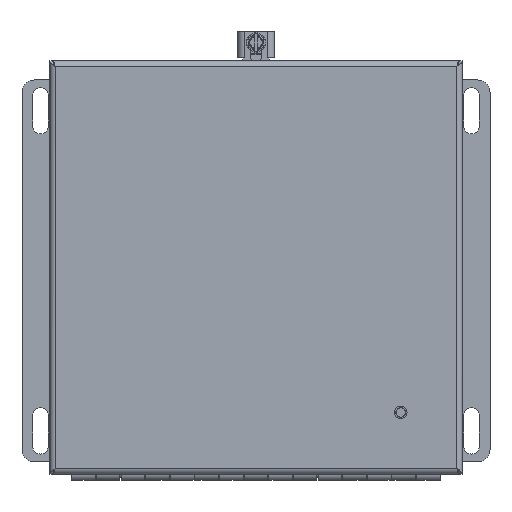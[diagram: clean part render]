
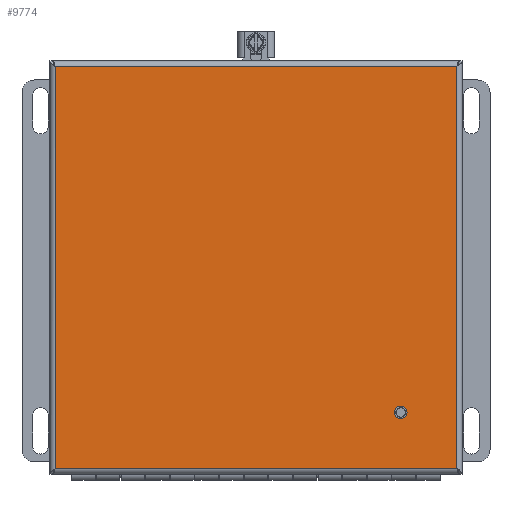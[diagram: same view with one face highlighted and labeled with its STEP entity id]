
A CAD part, top view. The second image highlights one B-rep face of the part: STEP entity #9774.
In plain terms, the highlighted planar face has unit normal (0, 0, 1) as drawn and (0, 0, -1) by its records, which use the part's own axes.
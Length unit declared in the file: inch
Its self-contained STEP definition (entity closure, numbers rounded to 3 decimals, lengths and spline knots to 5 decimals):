
#8419=DIRECTION('',(0.,-1.,0.));
#8420=VECTOR('',#8419,8.161);
#8421=CARTESIAN_POINT('',(8.263,-0.00827,0.));
#8422=LINE('',#8421,#8420);
#8454=CARTESIAN_POINT('',(1.25,-7.03127,0.));
#8455=DIRECTION('',(0.,0.,-1.));
#8456=DIRECTION('',(0.,-1.,0.));
#8457=AXIS2_PLACEMENT_3D('',#8454,#8455,#8456);
#8462=CARTESIAN_POINT('',(1.25,-7.03127,0.));
#8463=DIRECTION('',(0.,0.,-1.));
#8464=DIRECTION('',(0.,1.,0.));
#8465=AXIS2_PLACEMENT_3D('',#8462,#8463,#8464);
#8725=DIRECTION('',(1.,0.,0.));
#8726=VECTOR('',#8725,8.151);
#8727=CARTESIAN_POINT('',(0.112,-8.16927,0.));
#8728=LINE('',#8727,#8726);
#8781=DIRECTION('',(0.,-1.,0.));
#8782=VECTOR('',#8781,8.161);
#8783=CARTESIAN_POINT('',(0.112,-0.00827,0.));
#8784=LINE('',#8783,#8782);
#8985=DIRECTION('',(1.,0.,0.));
#8986=VECTOR('',#8985,8.151);
#8987=CARTESIAN_POINT('',(0.112,-0.00827,0.));
#8988=LINE('',#8987,#8986);
#9275=CARTESIAN_POINT('',(0.112,-0.00827,0.));
#9276=CARTESIAN_POINT('',(8.263,-0.00827,0.));
#9277=VERTEX_POINT('',#9275);
#9278=VERTEX_POINT('',#9276);
#9291=CARTESIAN_POINT('',(0.112,-8.16927,0.));
#9292=CARTESIAN_POINT('',(8.263,-8.16927,0.));
#9293=VERTEX_POINT('',#9291);
#9294=VERTEX_POINT('',#9292);
#9303=CARTESIAN_POINT('',(1.25,-7.12932,0.));
#9304=CARTESIAN_POINT('',(1.25,-6.93322,0.));
#9305=VERTEX_POINT('',#9303);
#9306=VERTEX_POINT('',#9304);
#9754=CARTESIAN_POINT('',(0.,0.10373,0.));
#9755=DIRECTION('',(0.,0.,-1.));
#9756=DIRECTION('',(1.,0.,0.));
#9757=AXIS2_PLACEMENT_3D('',#9754,#9755,#9756);
#9758=PLANE('',#9757);
#9759=ORIENTED_EDGE('',*,*,#9744,.F.);
#9761=ORIENTED_EDGE('',*,*,#9760,.F.);
#9763=ORIENTED_EDGE('',*,*,#9762,.T.);
#9765=ORIENTED_EDGE('',*,*,#9764,.T.);
#9766=EDGE_LOOP('',(#9759,#9761,#9763,#9765));
#9767=FACE_OUTER_BOUND('',#9766,.F.);
#9769=ORIENTED_EDGE('',*,*,#9768,.T.);
#9771=ORIENTED_EDGE('',*,*,#9770,.T.);
#9772=EDGE_LOOP('',(#9769,#9771));
#9773=FACE_BOUND('',#9772,.F.);
#8458=CIRCLE('',#8457,0.09805);
#8466=CIRCLE('',#8465,0.09805);
#9744=EDGE_CURVE('',#9278,#9294,#8422,.T.);
#9760=EDGE_CURVE('',#9277,#9278,#8988,.T.);
#9762=EDGE_CURVE('',#9277,#9293,#8784,.T.);
#9764=EDGE_CURVE('',#9293,#9294,#8728,.T.);
#9768=EDGE_CURVE('',#9305,#9306,#8458,.T.);
#9770=EDGE_CURVE('',#9306,#9305,#8466,.T.);
#9774=ADVANCED_FACE('',(#9767,#9773),#9758,.T.);
